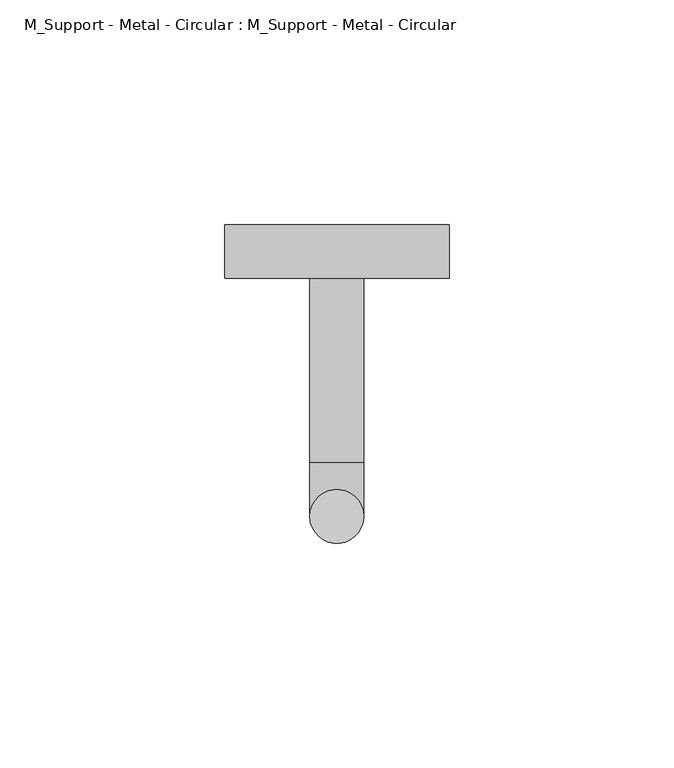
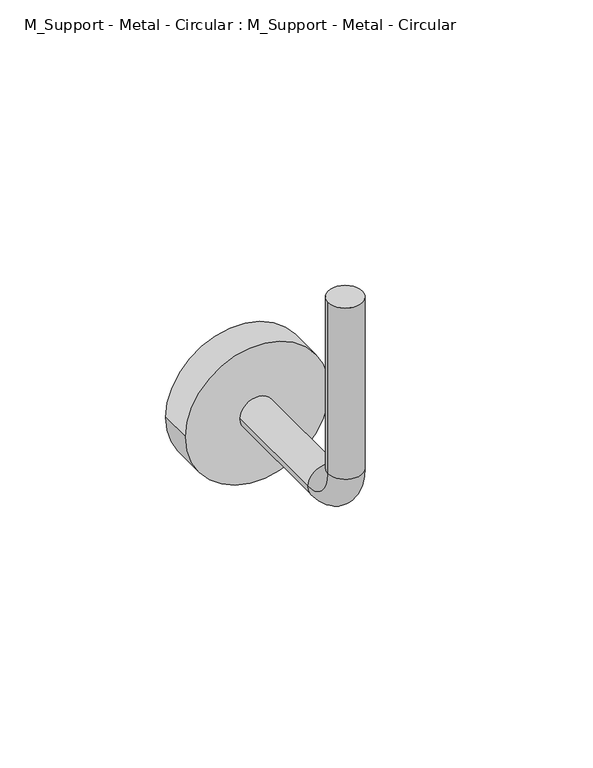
"""IFC4 building model written with IfcOpenShell, lengths in millimetres: proxy geometry, M_Support - Metal - Circular : M_Support - Metal - Circular."""

from ifc_helpers import new_model, si_unit, point, frame, frame_2d, origin, origin_with_axes, place, context, project, spatial, circle_curve, ellipse_curve, trimmed, segment, composite_curve, outline, extrude, source, transform, mapped, element, save
from ifc_brep_helpers import plane_surface, cylinder_surface, revolved_surface, advanced_brep


def m_support_metal_circular_m_support_metal_circular_0da74429(model_context):
    return source(origin(), model_context, "Body", "SolidModel", [
        advanced_brep(
        [(-6.0, 0.0, 0.0), (6.0, 0.0, 0.0), (-6.0, 0.0, -63.0), (6.0, 0.0, -63.0), (6.0, 12.0, -75.0), (-6.0, 12.0, -75.0), (-6.0, 53.0, -75.0), (6.0, 53.0, -75.0)],
        [
            (0, 1, circle_curve(origin_with_axes(), 6.0)),
            (1, 0, circle_curve(origin_with_axes(), 6.0)),
            (0, 2),
            (2, 3, circle_curve(frame((0.0, 0.0, -63.0), z_axis=(0.0, 0.0, 1.0), x_axis=(1.0, 0.0, 0.0)), 6.0)),
            (3, 1),
            (3, 2, circle_curve(frame((0.0, 0.0, -63.0), z_axis=(0.0, 0.0, 1.0), x_axis=(1.0, 0.0, 0.0)), 6.0)),
            (4, 3, circle_curve(frame((6.0, 12.0, -63.0), z_axis=(-1.0, 0.0, 0.0), x_axis=(0.0, -1.0, 0.0)), 12.0)),
            (2, 5, circle_curve(frame((-6.0, 12.0, -63.0), z_axis=(1.0, 0.0, 0.0), x_axis=(0.0, -1.0, 0.0)), 12.0)),
            (5, 4, circle_curve(frame((0.0, 12.0, -75.0), z_axis=(0.0, -1.0, 0.0), x_axis=(1.0, 0.0, 0.0)), 6.0)),
            (4, 5, circle_curve(frame((0.0, 12.0, -75.0), z_axis=(0.0, -1.0, 0.0), x_axis=(1.0, 0.0, 0.0)), 6.0)),
            (6, 7, circle_curve(frame((0.0, 53.0, -75.0), z_axis=(0.0, 1.0, 0.0), x_axis=(1.0, 0.0, 0.0)), 6.0)),
            (7, 6, circle_curve(frame((0.0, 53.0, -75.0), z_axis=(0.0, 1.0, 0.0), x_axis=(1.0, 0.0, 0.0)), 6.0)),
            (5, 6),
            (7, 4),
        ],
        [
            plane_surface(origin_with_axes()),
            cylinder_surface(origin_with_axes(), 6.0),
            revolved_surface(trimmed(ellipse_curve(frame((0.0, 0.0, -63.0), z_axis=(0.0, 0.0, 1.0), x_axis=(1.0, 0.0, 0.0)), 6.0, 6.0), [point((-6.0, 0.0, -63.0))], [point((6.0, 0.0, -63.0))], True, "CARTESIAN"), (0.0, 12.0, -63.0), (1.0, 0.0, 0.0)),
            revolved_surface(trimmed(ellipse_curve(frame((0.0, 0.0, -63.0), z_axis=(0.0, 0.0, 1.0), x_axis=(1.0, 0.0, 0.0)), 6.0, 6.0), [point((6.0, 0.0, -63.0))], [point((-6.0, 0.0, -63.0))], True, "CARTESIAN"), (0.0, 12.0, -63.0), (1.0, 0.0, 0.0)),
            plane_surface(frame((0.0, 53.0, -75.0), z_axis=(0.0, 1.0, 0.0), x_axis=(1.0, 0.0, 0.0))),
            cylinder_surface(frame((0.0, 12.0, -75.0), z_axis=(0.0, -1.0, 0.0), x_axis=(1.0, 0.0, 0.0)), 6.0),
        ],
        [
            (0, [[1, 2]]),
            (1, [[-1, 3, 4, 5]]),
            (1, [[-2, -5, 6, -3]]),
            (2, [[7, -4, 8, 9]]),
            (3, [[-8, -6, -7, 10]]),
            (4, [[11, 12]]),
            (5, [[-9, 13, -12, 14]]),
            (5, [[-10, -14, -11, -13]]),
        ],
    ),
        extrude(outline(composite_curve([segment(trimmed(circle_curve(frame_2d((-75.0, 0.0)), 25.0), [point((-75.0, -25.0))], [point((-75.0, 25.0))], False, "CARTESIAN"), True, "CONTINUOUS"), segment(trimmed(circle_curve(frame_2d((-75.0, 0.0)), 25.0), [point((-75.0, 25.0))], [point((-75.0, -25.0))], False, "CARTESIAN"), True, "CONTINUOUS")], self_intersect=False)), frame((0.0, 53.0, 0.0), z_axis=(0.0, 1.0, 0.0), x_axis=(0.0, 0.0, 1.0)), (0.0, 0.0, 1.0), 12.0),
    ])


if __name__ == "__main__":
    model = new_model("IFC4")
    model_context = context("Model", 3, world=origin())
    ifc_project = project(units=[si_unit("LENGTHUNIT", "METRE", prefix="MILLI")], contexts=[model_context])
    site = spatial("IfcSite", under=ifc_project)
    building = spatial("IfcBuilding", under=site)
    placement = place(None, origin())
    m_support_metal_circular_m_support_metal_circular_shape = m_support_metal_circular_m_support_metal_circular_0da74429(model_context)
    element("IfcBuildingElementProxy", 1, Name="M_Support - Metal - Circular : M_Support - Metal - Circular", ObjectType="M_Support - Metal - Circular : M_Support - Metal - Circular", at=placement, inside=building, context=model_context, shape_type="MappedRepresentation", body=[
        mapped(m_support_metal_circular_m_support_metal_circular_shape, transform((0.0, 0.0, 0.0), x_axis=(1.0, 0.0, 0.0), y_axis=(0.0, 1.0, 0.0), z_axis=(0.0, 0.0, 1.0))),
    ])
    save(model, "model.ifc")
